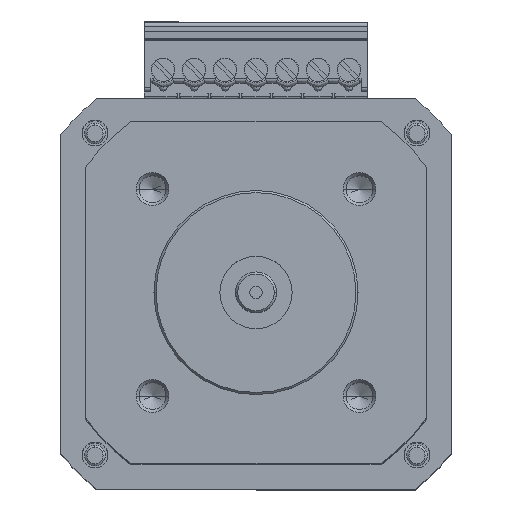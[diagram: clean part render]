
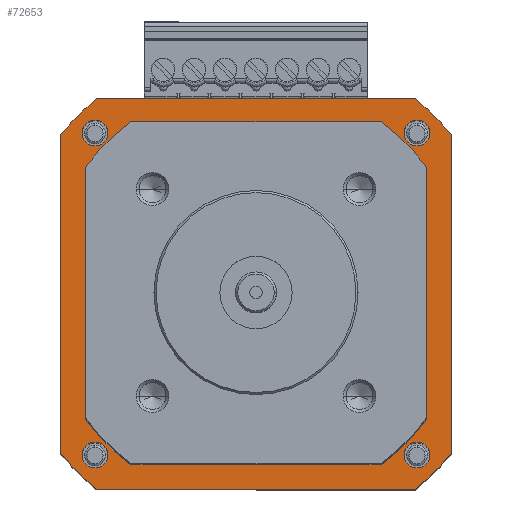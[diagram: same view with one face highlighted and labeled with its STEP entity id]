
A CAD part, top view. The second image highlights one B-rep face of the part: STEP entity #72653.
In plain terms, the highlighted planar face has unit normal (0, 0, 1).
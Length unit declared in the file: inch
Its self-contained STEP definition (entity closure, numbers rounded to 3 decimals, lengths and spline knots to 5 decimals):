
#6217 = CARTESIAN_POINT ( 'NONE',  ( -0.84199, -0.77949, 0. ) ) ;
#6234 = CARTESIAN_POINT ( 'NONE',  ( -0.71699, -0.77949, 0. ) ) ;
#6240 = CIRCLE ( 'NONE', #6257, 0.0625 ) ;
#6254 = DIRECTION ( 'NONE',  ( 1., 0., 0. ) ) ;
#6255 = DIRECTION ( 'NONE',  ( 0., 0., 1. ) ) ;
#6256 = CARTESIAN_POINT ( 'NONE',  ( -0.77949, -0.77949, 0. ) ) ;
#6257 = AXIS2_PLACEMENT_3D ( 'NONE', #6256, #6255, #6254 ) ;
#6272 = CARTESIAN_POINT ( 'NONE',  ( 0.71699, -0.77949, 0. ) ) ;
#6295 = CIRCLE ( 'NONE', #6299, 0.0625 ) ;
#6299 = AXIS2_PLACEMENT_3D ( 'NONE', #6344, #6343, #6342 ) ;
#6316 = CARTESIAN_POINT ( 'NONE',  ( 0.71699, 0.77949, 0. ) ) ;
#6324 = CARTESIAN_POINT ( 'NONE',  ( 0.84199, 0.77949, 0. ) ) ;
#6342 = DIRECTION ( 'NONE',  ( 1., 0., 0. ) ) ;
#6343 = DIRECTION ( 'NONE',  ( 0., 0., 1. ) ) ;
#6344 = CARTESIAN_POINT ( 'NONE',  ( 0.77949, -0.77949, 0. ) ) ;
#6346 = CARTESIAN_POINT ( 'NONE',  ( 0.84199, -0.77949, 0. ) ) ;
#6375 = DIRECTION ( 'NONE',  ( 1., 0., 0. ) ) ;
#6376 = DIRECTION ( 'NONE',  ( 0., 0., 1. ) ) ;
#6377 = AXIS2_PLACEMENT_3D ( 'NONE', #6381, #6376, #6375 ) ;
#6381 = CARTESIAN_POINT ( 'NONE',  ( 0.77949, 0.77949, 0. ) ) ;
#6382 = CIRCLE ( 'NONE', #6377, 0.0625 ) ;
#6393 = CIRCLE ( 'NONE', #6437, 0.0625 ) ;
#6427 = CARTESIAN_POINT ( 'NONE',  ( -0.84199, 0.77949, 0. ) ) ;
#6432 = DIRECTION ( 'NONE',  ( 1., 0., 0. ) ) ;
#6433 = DIRECTION ( 'NONE',  ( 0., 0., 1. ) ) ;
#6436 = CARTESIAN_POINT ( 'NONE',  ( -0.71699, 0.77949, 0. ) ) ;
#6437 = AXIS2_PLACEMENT_3D ( 'NONE', #6440, #6433, #6432 ) ;
#6440 = CARTESIAN_POINT ( 'NONE',  ( -0.77949, 0.77949, 0. ) ) ;
#6450 = CARTESIAN_POINT ( 'NONE',  ( 0., 0., 0. ) ) ;
#6455 = CIRCLE ( 'NONE', #6492, 1.22047 ) ;
#6465 = CARTESIAN_POINT ( 'NONE',  ( -0.945, 0.77235, 0. ) ) ;
#6474 = DIRECTION ( 'NONE',  ( 1., 0., 0. ) ) ;
#6475 = DIRECTION ( 'NONE',  ( 0., 0., 1. ) ) ;
#6479 = CARTESIAN_POINT ( 'NONE',  ( -0.77235, 0.945, 0. ) ) ;
#6492 = AXIS2_PLACEMENT_3D ( 'NONE', #6450, #6475, #6474 ) ;
#6520 = CARTESIAN_POINT ( 'NONE',  ( 0.945, 0.77235, 0. ) ) ;
#6527 = CARTESIAN_POINT ( 'NONE',  ( 0.77235, 0.945, 0. ) ) ;
#6537 = DIRECTION ( 'NONE',  ( -1., 0., 0. ) ) ;
#6538 = VECTOR ( 'NONE', #6537, 39.37008 ) ;
#6539 = CARTESIAN_POINT ( 'NONE',  ( -0.77235, 0.945, 0. ) ) ;
#6540 = LINE ( 'NONE', #6539, #6538 ) ;
#6567 = DIRECTION ( 'NONE',  ( 0., 1., 0. ) ) ;
#6568 = VECTOR ( 'NONE', #6567, 39.37008 ) ;
#6569 = CARTESIAN_POINT ( 'NONE',  ( 0.945, -0.77235, 0. ) ) ;
#6570 = LINE ( 'NONE', #6569, #6568 ) ;
#6582 = CIRCLE ( 'NONE', #6596, 1.22047 ) ;
#6585 = CIRCLE ( 'NONE', #6591, 1.22047 ) ;
#6591 = AXIS2_PLACEMENT_3D ( 'NONE', #6639, #6638, #6637 ) ;
#6596 = AXIS2_PLACEMENT_3D ( 'NONE', #6627, #6626, #6625 ) ;
#6625 = DIRECTION ( 'NONE',  ( 1., 0., 0. ) ) ;
#6626 = DIRECTION ( 'NONE',  ( 0., 0., 1. ) ) ;
#6627 = CARTESIAN_POINT ( 'NONE',  ( 0., 0., 0. ) ) ;
#6637 = DIRECTION ( 'NONE',  ( 1., 0., 0. ) ) ;
#6638 = DIRECTION ( 'NONE',  ( 0., 0., 1. ) ) ;
#6639 = CARTESIAN_POINT ( 'NONE',  ( 0., 0., 0. ) ) ;
#6661 = CARTESIAN_POINT ( 'NONE',  ( 0.945, -0.77235, 0. ) ) ;
#7177 = AXIS2_PLACEMENT_3D ( 'NONE', #7179, #7429, #7426 ) ;
#7179 = CARTESIAN_POINT ( 'NONE',  ( 0., 0., 0. ) ) ;
#7207 = CARTESIAN_POINT ( 'NONE',  ( -0.77235, -0.945, 0. ) ) ;
#7211 = CARTESIAN_POINT ( 'NONE',  ( 0.77235, -0.945, 0. ) ) ;
#7252 = DIRECTION ( 'NONE',  ( 1., 0., 0. ) ) ;
#7253 = VECTOR ( 'NONE', #7252, 39.37008 ) ;
#7256 = CARTESIAN_POINT ( 'NONE',  ( -0.77235, -0.945, 0. ) ) ;
#7257 = LINE ( 'NONE', #7256, #7253 ) ;
#7426 = DIRECTION ( 'NONE',  ( 1., 0., 0. ) ) ;
#7429 = DIRECTION ( 'NONE',  ( 0., 0., 1. ) ) ;
#7876 = CIRCLE ( 'NONE', #7177, 1.22047 ) ;
#23111 = DIRECTION ( 'NONE',  ( 1., 0., 0. ) ) ;
#23113 = DIRECTION ( 'NONE',  ( 0., 0., 1. ) ) ;
#23129 = AXIS2_PLACEMENT_3D ( 'NONE', #23146, #23113, #23111 ) ;
#23137 = CIRCLE ( 'NONE', #23129, 0.0625 ) ;
#23146 = CARTESIAN_POINT ( 'NONE',  ( 0.77949, 0.77949, 0. ) ) ;
#23166 = CIRCLE ( 'NONE', #23248, 0.0625 ) ;
#23244 = DIRECTION ( 'NONE',  ( 1., 0., 0. ) ) ;
#23247 = DIRECTION ( 'NONE',  ( 0., 0., 1. ) ) ;
#23248 = AXIS2_PLACEMENT_3D ( 'NONE', #23254, #23247, #23244 ) ;
#23254 = CARTESIAN_POINT ( 'NONE',  ( -0.77949, 0.77949, 0. ) ) ;
#23412 = FACE_BOUND ( 'NONE', #72373, .T. ) ;
#23490 = FACE_BOUND ( 'NONE', #73128, .T. ) ;
#23492 = FACE_BOUND ( 'NONE', #72458, .T. ) ;
#23494 = PLANE ( 'NONE',  #23499 ) ;
#23497 = FACE_BOUND ( 'NONE', #72881, .T. ) ;
#23499 = AXIS2_PLACEMENT_3D ( 'NONE', #23540, #23538, #23537 ) ;
#23501 = FACE_OUTER_BOUND ( 'NONE', #73220, .T. ) ;
#23537 = DIRECTION ( 'NONE',  ( 1., 0., 0. ) ) ;
#23538 = DIRECTION ( 'NONE',  ( 0., 0., 1. ) ) ;
#23540 = CARTESIAN_POINT ( 'NONE',  ( 0., 0., 0. ) ) ;
#23592 = AXIS2_PLACEMENT_3D ( 'NONE', #23665, #23594, #23658 ) ;
#23594 = DIRECTION ( 'NONE',  ( 0., 0., 1. ) ) ;
#23658 = DIRECTION ( 'NONE',  ( 1., 0., 0. ) ) ;
#23665 = CARTESIAN_POINT ( 'NONE',  ( 0.77949, -0.77949, 0. ) ) ;
#23671 = CIRCLE ( 'NONE', #23592, 0.0625 ) ;
#24439 = DIRECTION ( 'NONE',  ( 1., 0., 0. ) ) ;
#24441 = DIRECTION ( 'NONE',  ( 0., 0., 1. ) ) ;
#24444 = AXIS2_PLACEMENT_3D ( 'NONE', #24463, #24441, #24439 ) ;
#24458 = CIRCLE ( 'NONE', #24444, 0.0625 ) ;
#24463 = CARTESIAN_POINT ( 'NONE',  ( -0.77949, -0.77949, 0. ) ) ;
#34956 = CARTESIAN_POINT ( 'NONE',  ( -0.945, -0.77235, 0. ) ) ;
#35259 = VECTOR ( 'NONE', #35346, 39.37008 ) ;
#35299 = CARTESIAN_POINT ( 'NONE',  ( -0.945, -0.77235, 0. ) ) ;
#35300 = LINE ( 'NONE', #35299, #35259 ) ;
#35346 = DIRECTION ( 'NONE',  ( 0., -1., 0. ) ) ;
#69152 = VERTEX_POINT ( 'NONE', #6272 ) ;
#69158 = VERTEX_POINT ( 'NONE', #6217 ) ;
#69160 = VERTEX_POINT ( 'NONE', #6234 ) ;
#69161 = EDGE_CURVE ( 'NONE', #69158, #69160, #6240, .T. ) ;
#69171 = VERTEX_POINT ( 'NONE', #6316 ) ;
#69180 = EDGE_CURVE ( 'NONE', #69152, #69184, #6295, .T. ) ;
#69184 = VERTEX_POINT ( 'NONE', #6346 ) ;
#69185 = VERTEX_POINT ( 'NONE', #6324 ) ;
#69188 = EDGE_CURVE ( 'NONE', #69171, #69185, #6382, .T. ) ;
#69199 = EDGE_CURVE ( 'NONE', #69206, #69204, #6393, .T. ) ;
#69204 = VERTEX_POINT ( 'NONE', #6436 ) ;
#69206 = VERTEX_POINT ( 'NONE', #6427 ) ;
#69212 = VERTEX_POINT ( 'NONE', #6465 ) ;
#69220 = EDGE_CURVE ( 'NONE', #69226, #69212, #6455, .T. ) ;
#69226 = VERTEX_POINT ( 'NONE', #6479 ) ;
#69235 = EDGE_CURVE ( 'NONE', #69253, #69226, #6540, .T. ) ;
#69246 = VERTEX_POINT ( 'NONE', #6520 ) ;
#69252 = EDGE_CURVE ( 'NONE', #69289, #69246, #6570, .T. ) ;
#69253 = VERTEX_POINT ( 'NONE', #6527 ) ;
#69270 = EDGE_CURVE ( 'NONE', #69246, #69253, #6585, .T. ) ;
#69279 = EDGE_CURVE ( 'NONE', #69445, #69289, #6582, .T. ) ;
#69289 = VERTEX_POINT ( 'NONE', #6661 ) ;
#69445 = VERTEX_POINT ( 'NONE', #7211 ) ;
#69461 = VERTEX_POINT ( 'NONE', #7207 ) ;
#69462 = EDGE_CURVE ( 'NONE', #69461, #69445, #7257, .T. ) ;
#69644 = EDGE_CURVE ( 'NONE', #76119, #69461, #7876, .T. ) ;
#72288 = ORIENTED_EDGE ( 'NONE', *, *, #72838, .F. ) ;
#72319 = ORIENTED_EDGE ( 'NONE', *, *, #69161, .F. ) ;
#72373 = EDGE_LOOP ( 'NONE', ( #72598, #72722 ) ) ;
#72458 = EDGE_LOOP ( 'NONE', ( #72883, #72814 ) ) ;
#72559 = EDGE_CURVE ( 'NONE', #69185, #69171, #23137, .T. ) ;
#72588 = EDGE_CURVE ( 'NONE', #69204, #69206, #23166, .T. ) ;
#72598 = ORIENTED_EDGE ( 'NONE', *, *, #72675, .F. ) ;
#72622 = ORIENTED_EDGE ( 'NONE', *, *, #69199, .F. ) ;
#72623 = ORIENTED_EDGE ( 'NONE', *, *, #76197, .T. ) ;
#72653 = ADVANCED_FACE ( 'NONE', ( #23497, #23412, #23492, #23490, #23501 ), #23494, .T. ) ;
#72675 = EDGE_CURVE ( 'NONE', #69184, #69152, #23671, .T. ) ;
#72722 = ORIENTED_EDGE ( 'NONE', *, *, #69180, .F. ) ;
#72726 = ORIENTED_EDGE ( 'NONE', *, *, #69279, .T. ) ;
#72727 = ORIENTED_EDGE ( 'NONE', *, *, #69462, .T. ) ;
#72814 = ORIENTED_EDGE ( 'NONE', *, *, #69188, .F. ) ;
#72816 = ORIENTED_EDGE ( 'NONE', *, *, #69220, .T. ) ;
#72838 = EDGE_CURVE ( 'NONE', #69160, #69158, #24458, .T. ) ;
#72881 = EDGE_LOOP ( 'NONE', ( #72288, #72319 ) ) ;
#72883 = ORIENTED_EDGE ( 'NONE', *, *, #72559, .F. ) ;
#73057 = ORIENTED_EDGE ( 'NONE', *, *, #72588, .F. ) ;
#73128 = EDGE_LOOP ( 'NONE', ( #73057, #72622 ) ) ;
#73220 = EDGE_LOOP ( 'NONE', ( #72816, #72623, #73236, #72727, #72726, #73415, #73386, #73321 ) ) ;
#73236 = ORIENTED_EDGE ( 'NONE', *, *, #69644, .T. ) ;
#73321 = ORIENTED_EDGE ( 'NONE', *, *, #69235, .T. ) ;
#73386 = ORIENTED_EDGE ( 'NONE', *, *, #69270, .T. ) ;
#73415 = ORIENTED_EDGE ( 'NONE', *, *, #69252, .T. ) ;
#76119 = VERTEX_POINT ( 'NONE', #34956 ) ;
#76197 = EDGE_CURVE ( 'NONE', #69212, #76119, #35300, .T. ) ;
